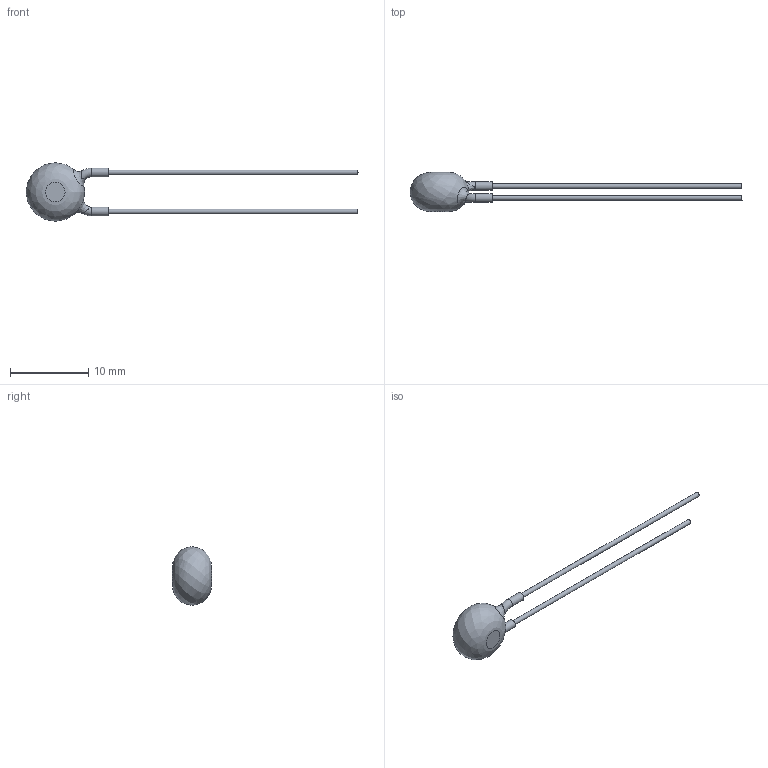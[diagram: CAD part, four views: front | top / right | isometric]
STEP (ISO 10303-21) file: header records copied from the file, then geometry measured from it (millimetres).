
FILE_DESCRIPTION((''),'2;1');
FILE_NAME('I:\Marketing\M6t1\3D-Models\Zchng-Werk-3\Upload for homepage\BCC\AY2\Y5S-5mm\AY2331K29Y5SS63L5\AY2331K29Y5SS63L5.stp','2015-09-09T08:28:41',(''),(''),'Autodesk Inventor 2013','Autodesk Inventor 2013','');
FILE_SCHEMA(('AUTOMOTIVE_DESIGN { 1 0 10303 214 1 1 1 1 }'));
Length unit declared in the file: centimetre
Products named in the file (1): AY2331K29Y5SS63L5
Bounding box: 42.5 x 5 x 7.5 mm (x, y, z)
Volume: 193.2 mm3; surface area: 296.2 mm2
Topology: 1 solids, 1 shells, 15 faces, 27 edges, 18 vertices
Faces by surface type: plane 6, cylinder 4, bspline 3, torus 2
Full cylindrical faces by diameter (mm): 0.6 x2, 1.1 x2
Entity records: 739 total; most frequent: CARTESIAN_POINT 446, DIRECTION 50, ORIENTED_EDGE 32, EDGE_LOOP 26, AXIS2_PLACEMENT_3D 25, EDGE_CURVE 16, STYLED_ITEM 16, FACE_OUTER_BOUND 15
